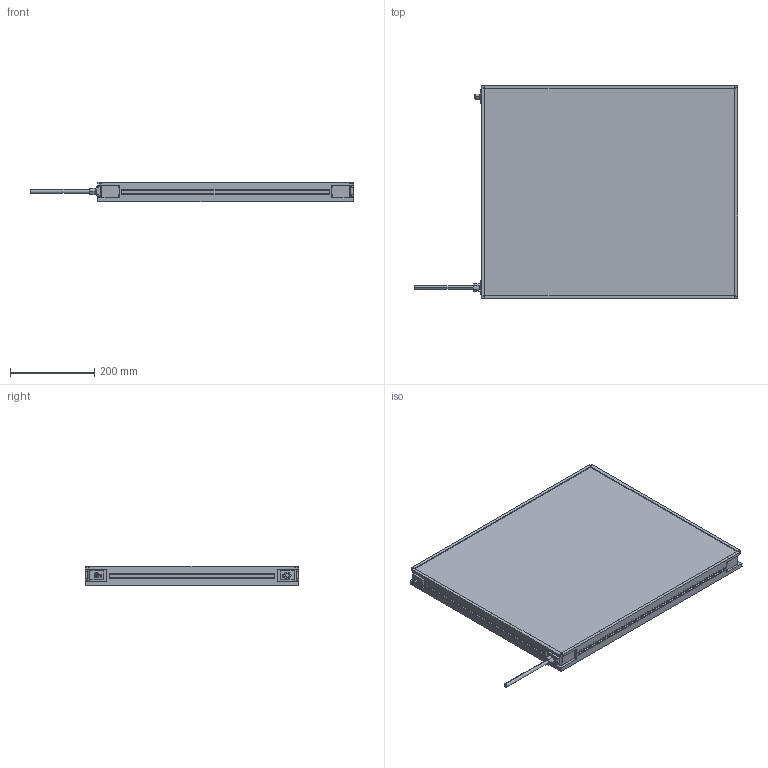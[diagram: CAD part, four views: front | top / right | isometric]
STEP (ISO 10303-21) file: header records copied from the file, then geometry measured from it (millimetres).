
FILE_DESCRIPTION (( 'STEP AP214' ), '1' );
FILE_NAME ('MBACK-xxxx-xxx-M1A2_CLIENT500x600.STEP', '2022-04-01T11:43:20', ( '' ), ( '' ), 'SwSTEP 2.0', 'SolidWorks 2020', '' );
FILE_SCHEMA (( 'AUTOMOTIVE_DESIGN' ));
Length unit declared in the file: millimetre
Products named in the file (1): MBACK-xxxx-xxx-M1A2_CLIENT500x600
Bounding box: 767.4 x 508 x 45.5 mm (x, y, z)
Volume: 12837036.8 mm3; surface area: 771810.7 mm2
Topology: 1 solids, 1 shells, 470 faces, 1210 edges, 804 vertices
Faces by surface type: plane 265, cylinder 117, bspline 80, cone 8
Entity records: 18046 total; most frequent: CARTESIAN_POINT 6837, ORIENTED_EDGE 2420, DIRECTION 2082, EDGE_CURVE 1210, VERTEX_POINT 804, VECTOR 800, LINE 800, AXIS2_PLACEMENT_3D 641
